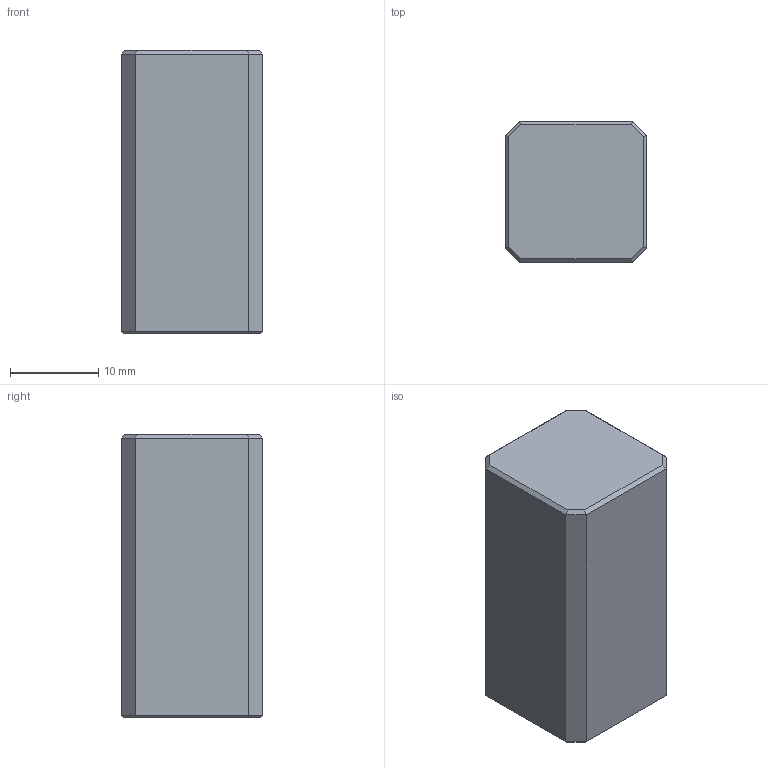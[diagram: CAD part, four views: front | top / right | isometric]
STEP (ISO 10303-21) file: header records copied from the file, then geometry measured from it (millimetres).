
FILE_DESCRIPTION(('Open CASCADE Model'),'2;1');
FILE_NAME('PN-PIN-knob-20','2026-10-19T21:24:16',('Author'),( 'Open CASCADE'),'Open CASCADE STEP processor 8.0','build123d', 'Unknown');
FILE_SCHEMA(('AUTOMOTIVE_DESIGN { 1 0 10303 214 1 1 1 1 }'));
Length unit declared in the file: millimetre
Products named in the file (2): PN-PIN-knob-20; brass_PN-PIN20__k
Assembly tree (1 placements, depth 2):
  PN-PIN-knob-20
    brass_PN-PIN20__k
Bounding box: 16 x 16 x 32 mm (x, y, z)
Volume: 7912.3 mm3; surface area: 2531.2 mm2
Topology: 1 solids, 1 shells, 30 faces, 62 edges, 36 vertices
Faces by surface type: plane 28, cylinder 2
Full cylindrical faces by diameter (mm): 3.3 x1, 5.1 x1
Entity records: 1596 total; most frequent: CARTESIAN_POINT 254, DIRECTION 254, LINE 178, VECTOR 178, ORIENTED_EDGE 124, PCURVE 124, DEFINITIONAL_REPRESENTATION 124, EDGE_CURVE 62
